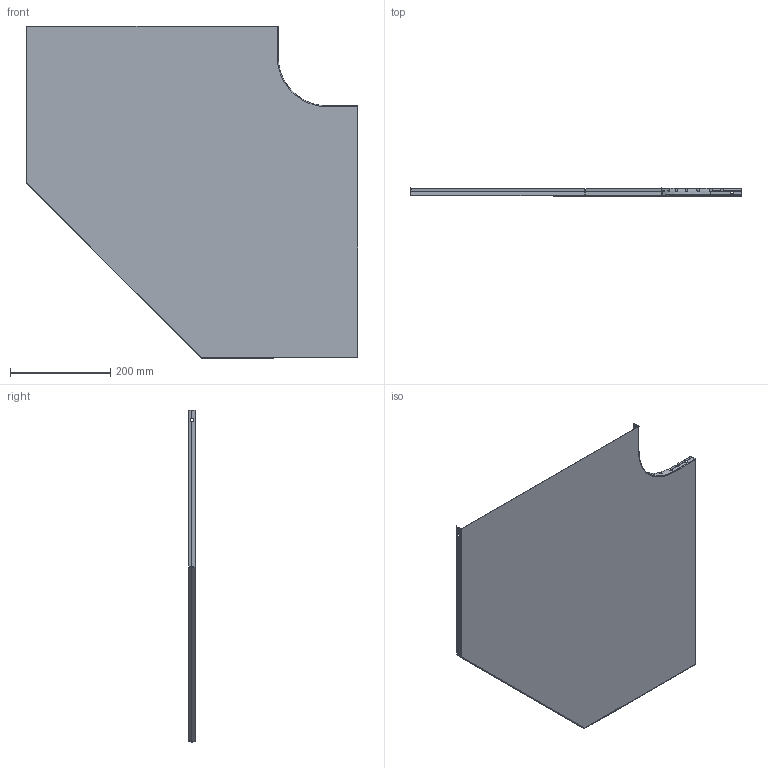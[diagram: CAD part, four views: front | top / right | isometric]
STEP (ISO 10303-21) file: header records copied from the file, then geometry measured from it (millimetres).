
FILE_DESCRIPTION (( 'STEP AP203' ), '1' );
FILE_NAME ('ERE_TAPA CP 500 GC.step', '2023-07-28T14:55:38', ( '' ), ( '' ), 'SwSTEP 2.0', 'SolidWorks 2022', '' );
FILE_SCHEMA (( 'CONFIG_CONTROL_DESIGN' ));
Length unit declared in the file: millimetre
Products named in the file (1): ERE_TAPA CP 500 GC
Bounding box: 662.5 x 15.1 x 662.5 mm (x, y, z)
Volume: 261454.8 mm3; surface area: 748912 mm2
Topology: 1 solids, 1 shells, 220 faces, 542 edges, 316 vertices
Faces by surface type: plane 98, cylinder 66, bspline 54, torus 2
Entity records: 10713 total; most frequent: CARTESIAN_POINT 5957, ORIENTED_EDGE 1084, DIRECTION 796, EDGE_CURVE 542, VERTEX_POINT 316, AXIS2_PLACEMENT_3D 281, LINE 234, VECTOR 234
